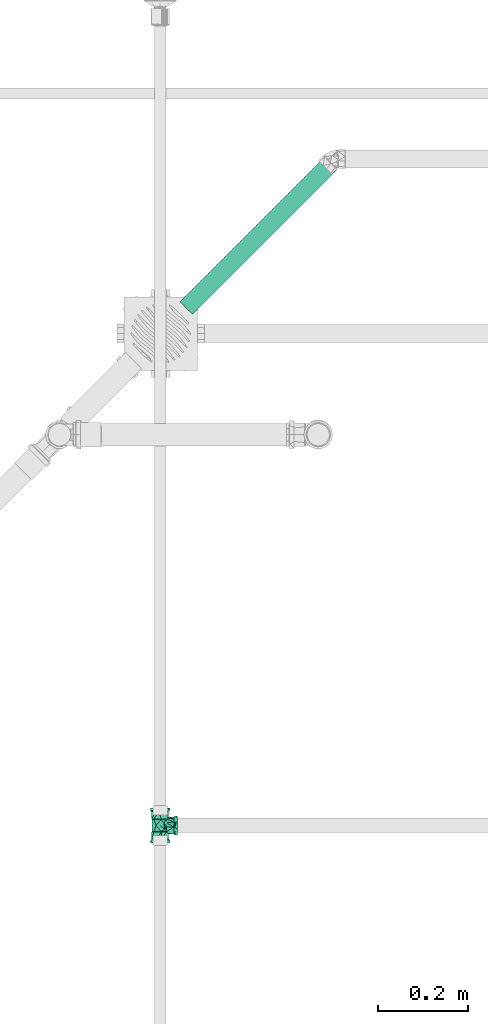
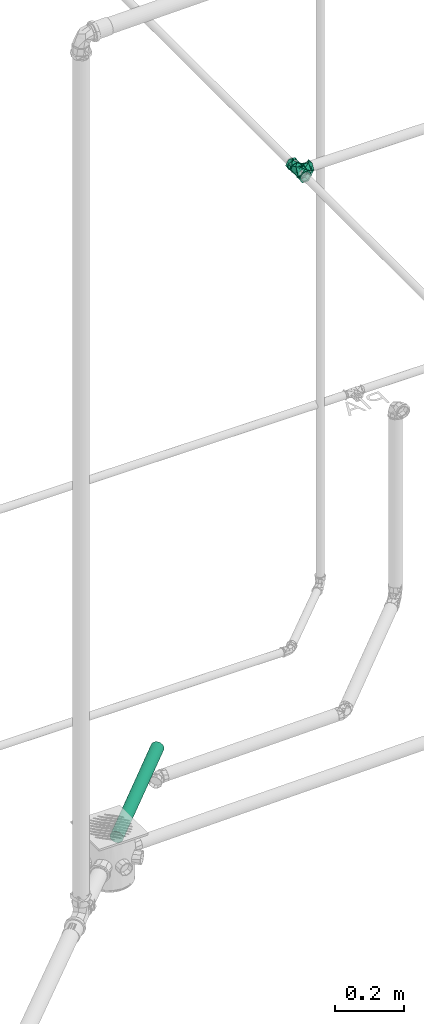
# One storey, part 65 of 589: 1 flow fitting, 1 flow segment.
"""IFC2X3 building model written with IfcOpenShell, lengths in millimetres."""

from ifc_helpers import new_model, entity, si_unit, converted_unit, derived_unit, direction, frame, frame_2d, origin, place, context, subcontext, project, spatial, circle, extrude, faceted_brep, source, transform, mapped, material, type_object, type_shapes, element, save


model = new_model("IFC2X3")

# Units and contexts
model_context = context("Model", 3, precision=0.01, world=origin(), true_north=direction((6.123031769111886e-17, 1.0)))
body_context = subcontext(model_context, "Body", "Model", "MODEL_VIEW")
ifc_project = project(units=[si_unit("LENGTHUNIT", "METRE", prefix="MILLI"), si_unit("AREAUNIT", "SQUARE_METRE"), si_unit("VOLUMEUNIT", "CUBIC_METRE"), converted_unit("PLANEANGLEUNIT", "DEGREE", entity("IfcRatioMeasure", 0.017453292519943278), si_unit("PLANEANGLEUNIT", "RADIAN"), dimensions=[0, 0, 0, 0, 0, 0, 0]), si_unit("MASSUNIT", "GRAM", prefix="KILO"), derived_unit("MASSDENSITYUNIT", [(si_unit("MASSUNIT", "GRAM", prefix="KILO"), 1), (si_unit("LENGTHUNIT", "METRE"), -3)]), derived_unit("IONCONCENTRATIONUNIT", [(si_unit("MASSUNIT", "GRAM", prefix="KILO"), 1), (si_unit("LENGTHUNIT", "METRE"), -3)]), derived_unit("MOMENTOFINERTIAUNIT", [(si_unit("LENGTHUNIT", "METRE"), 4)]), si_unit("TIMEUNIT", "SECOND"), si_unit("FREQUENCYUNIT", "HERTZ"), si_unit("THERMODYNAMICTEMPERATUREUNIT", "DEGREE_CELSIUS"), derived_unit("THERMALTRANSMITTANCEUNIT", [(si_unit("MASSUNIT", "GRAM", prefix="KILO"), 1), (si_unit("THERMODYNAMICTEMPERATUREUNIT", "KELVIN"), -1), (si_unit("TIMEUNIT", "SECOND"), -3)]), derived_unit("THERMALCONDUCTANCEUNIT", [(si_unit("MASSUNIT", "GRAM", prefix="KILO"), 1), (si_unit("THERMODYNAMICTEMPERATUREUNIT", "KELVIN"), -1), (si_unit("TIMEUNIT", "SECOND"), -3), (si_unit("LENGTHUNIT", "METRE"), 1)]), derived_unit("VOLUMETRICFLOWRATEUNIT", [(si_unit("LENGTHUNIT", "METRE"), 3), (si_unit("TIMEUNIT", "SECOND"), -1)]), derived_unit("MASSFLOWRATEUNIT", [(si_unit("MASSUNIT", "GRAM", prefix="KILO"), 1), (si_unit("TIMEUNIT", "SECOND"), -1)]), derived_unit("ROTATIONALFREQUENCYUNIT", [(si_unit("TIMEUNIT", "SECOND"), -1)]), si_unit("ELECTRICCURRENTUNIT", "AMPERE"), si_unit("ELECTRICVOLTAGEUNIT", "VOLT"), si_unit("POWERUNIT", "WATT"), si_unit("FORCEUNIT", "NEWTON", prefix="KILO"), si_unit("ILLUMINANCEUNIT", "LUX"), si_unit("LUMINOUSFLUXUNIT", "LUMEN"), si_unit("LUMINOUSINTENSITYUNIT", "CANDELA"), derived_unit("USERDEFINED", [(si_unit("MASSUNIT", "GRAM", prefix="KILO"), -1), (si_unit("LENGTHUNIT", "METRE"), -2), (si_unit("TIMEUNIT", "SECOND"), 3), (si_unit("LUMINOUSFLUXUNIT", "LUMEN"), 1)]), derived_unit("USERDEFINED", [(si_unit("MASSUNIT", "GRAM", prefix="KILO"), 1), (si_unit("TIMEUNIT", "SECOND"), -3), (si_unit("LENGTHUNIT", "METRE"), 3), (si_unit("ELECTRICCURRENTUNIT", "AMPERE"), -2)]), derived_unit("SOUNDPOWERUNIT", [(si_unit("MASSUNIT", "GRAM", prefix="KILO"), 1), (si_unit("TIMEUNIT", "SECOND"), -3), (si_unit("LENGTHUNIT", "METRE"), 2)]), derived_unit("SOUNDPRESSUREUNIT", [(si_unit("MASSUNIT", "GRAM", prefix="KILO"), 1), (si_unit("LENGTHUNIT", "METRE"), -1), (si_unit("TIMEUNIT", "SECOND"), -2)]), derived_unit("LINEARVELOCITYUNIT", [(si_unit("LENGTHUNIT", "METRE"), 1), (si_unit("TIMEUNIT", "SECOND"), -1)]), si_unit("PRESSUREUNIT", "PASCAL"), derived_unit("USERDEFINED", [(si_unit("MASSUNIT", "GRAM", prefix="KILO"), 1), (si_unit("LENGTHUNIT", "METRE"), -2), (si_unit("TIMEUNIT", "SECOND"), -2)]), derived_unit("LINEARFORCEUNIT", [(si_unit("MASSUNIT", "GRAM", prefix="KILO"), 1), (si_unit("TIMEUNIT", "SECOND"), -2)]), derived_unit("PLANARFORCEUNIT", [(si_unit("MASSUNIT", "GRAM", prefix="KILO"), 1), (si_unit("LENGTHUNIT", "METRE"), -1), (si_unit("TIMEUNIT", "SECOND"), -2)]), derived_unit("SPECIFICHEATCAPACITYUNIT", [(si_unit("THERMODYNAMICTEMPERATUREUNIT", "KELVIN"), -1), (si_unit("LENGTHUNIT", "METRE"), 2), (si_unit("TIMEUNIT", "SECOND"), -2)]), derived_unit("HEATINGVALUEUNIT", [(si_unit("LENGTHUNIT", "METRE"), 2), (si_unit("TIMEUNIT", "SECOND"), -2)]), derived_unit("VAPORPERMEABILITYUNIT", [(si_unit("LENGTHUNIT", "METRE"), -1), (si_unit("TIMEUNIT", "SECOND"), 1)]), derived_unit("DYNAMICVISCOSITYUNIT", [(si_unit("MASSUNIT", "GRAM", prefix="KILO"), 1), (si_unit("TIMEUNIT", "SECOND"), -1), (si_unit("LENGTHUNIT", "METRE"), -1)]), derived_unit("THERMALEXPANSIONCOEFFICIENTUNIT", [(si_unit("THERMODYNAMICTEMPERATUREUNIT", "KELVIN"), -1)]), derived_unit("MODULUSOFELASTICITYUNIT", [(si_unit("MASSUNIT", "GRAM", prefix="KILO"), 1), (si_unit("LENGTHUNIT", "METRE"), -1), (si_unit("TIMEUNIT", "SECOND"), -2)]), derived_unit("ISOTHERMALMOISTURECAPACITYUNIT", [(si_unit("LENGTHUNIT", "METRE"), 3), (si_unit("MASSUNIT", "GRAM", prefix="KILO"), -1)]), derived_unit("MOISTUREDIFFUSIVITYUNIT", [(si_unit("TIMEUNIT", "SECOND"), -1), (si_unit("LENGTHUNIT", "METRE"), 2)])], contexts=[model_context])

# Site, building, storey
site_placement = place(None, origin())
site = spatial("IfcSite", under=ifc_project, at=site_placement, Name="Default", CompositionType="ELEMENT")
building_placement = place(site_placement, origin())
building = spatial("IfcBuilding", under=site, at=building_placement, CompositionType="ELEMENT")
storey_placement = place(building_placement, frame((0.0, 0.0, 100.0)))
storey = spatial("IfcBuildingStorey", under=building, at=storey_placement, Name="TÉRREO", CompositionType="ELEMENT", Elevation=100.0)

# Flow segment
pipe_segment_type = type_object("IfcPipeSegmentType", Name="Tipos de tubos:PVC Esgoto Série Normal", PredefinedType="NOTDEFINED")
flow_segment_placement = place(storey_placement, origin())
element("IfcFlowSegment", 1, at=flow_segment_placement, inside=storey, type_object=pipe_segment_type, Name="Tipos de tubos:PVC Esgoto Série Normal", ObjectType="Tipos de tubos:PVC Esgoto Série Normal", context=body_context, shape_type="SweptSolid", body=[
    extrude(circle(Radius=20.0, at=frame_2d((-7.657026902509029e-13, -1.954009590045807e-14), x_axis=(1.0, 0.0))), frame((-7304.042231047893, -5047.21903945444, -109.95070554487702), z_axis=(0.7069654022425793, 0.7069654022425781, 0.01999600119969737), x_axis=(0.707106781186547, -0.7071067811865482, 0.0)), (0.0, 0.0, 1.0), 456.7004686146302),
])

# Flow fitting
ifc_material = material(Name="PVC Marrom")
pipe_fitting_type = type_object("IfcPipeFittingType", Name="PVC Marrom Soldável_Tê e Tê de Reducão_Rodrigo MEP:Tê", PredefinedType="NOTDEFINED", material=ifc_material)
shared_shape = source(origin(), body_context, "Body", "Brep", [
    faceted_brep([(10.749999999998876, -39.0, -18.619546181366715), (16.0, -39.0, 0.0), (12.0, -39.0, -6.928203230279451), (16.66854307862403, -39.0, -8.36832886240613), (8.0, -39.0, -13.856406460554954), (0.0, -39.0, -13.856406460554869), (-8.0, -39.0, -13.856406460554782), (0.0, -39.0, -18.619546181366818), (21.500000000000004, -39.0, 0.0), (11.832084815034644, -39.0, 7.219040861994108), (8.0, -39.0, 13.856406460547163), (16.12500000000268, -39.0, 9.309773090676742), (10.750000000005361, -39.0, 18.619546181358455), (0.0, -39.0, 13.856406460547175), (-8.0, -39.0, 13.856406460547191), (0.0, -39.0, 18.61954618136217), (-10.749999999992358, -39.0, 18.61954618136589), (-16.668543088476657, -39.0, 8.368328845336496), (-21.500000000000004, -39.0, 0.0), (-12.0, -39.0, 6.928203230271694), (-16.0, -39.0, 0.0), (-16.1249999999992, -39.0, -9.309773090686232), (-10.749999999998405, -39.0, -18.619546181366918), (-11.832084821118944, -39.0, -7.219040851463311), (-12.615537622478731, -33.0, 10.586891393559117), (-3.7310752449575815, -33.0, 21.17378278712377), (5.5663459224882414, -35.634400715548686, 20.76693990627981), (-21.499999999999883, -33.0, 0.0), (21.499999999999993, -33.0, 0.0), (8.884462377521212, -33.0, 10.586891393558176), (12.618193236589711, -33.0, -10.586423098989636), (3.7363864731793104, -33.0, -21.172846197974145), (-5.562438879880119, -35.63453199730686, -20.767986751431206), (-8.881806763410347, -33.0, -10.586423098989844), (-12.0, -33.0, -6.928203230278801), (-8.0, -33.0, -13.856406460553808), (-16.0, -33.0, 0.0), (-16.0, -30.500000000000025, 0.0), (-11.832084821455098, -30.50000000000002, -7.219040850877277), (-12.0, -30.50000000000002, -6.928203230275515), (-16.0, -20.4, 0.0), (-8.0, -30.50000000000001, -13.856406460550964), (-11.832084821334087, -20.4, -7.219040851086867), (-8.0, -20.4, -13.856406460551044), (8.0, -33.0, -13.856406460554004), (0.0, -33.0, -13.856406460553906), (8.0, -30.499999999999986, -13.856406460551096), (0.0, -30.499999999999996, -13.85640646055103), (8.0, -20.4, -13.85640646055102), (0.0, -20.4, -13.856406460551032), (-22.899999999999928, -8.0, -13.856406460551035), (-22.899999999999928, 0.0, -13.856406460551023), (-30.5, 0.0, -13.856406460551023), (-30.5, -8.0, -13.856406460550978), (-30.5, 8.0, -13.856406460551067), (-22.899999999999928, 8.0, -13.85640646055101), (-39.0, 8.0, -13.856406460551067), (-39.0, 0.0, -13.856406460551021), (-39.0, -8.0, -13.856406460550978), (22.900000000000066, 8.0, -13.856406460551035), (22.900000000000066, 0.0, -13.856406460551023), (22.900000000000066, -8.0, -13.85640646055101), (39.0, -8.0, -13.856406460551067), (39.0, 0.0, -13.856406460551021), (39.0, 8.0, -13.856406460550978), (11.832084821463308, -33.0, -7.219040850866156), (16.0, -33.0, 0.0), (12.0, -30.49999999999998, -6.928203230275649), (16.0, -30.499999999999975, 0.0), (12.0, -20.4, -6.928203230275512), (16.0, -20.4, 0.0), (11.832084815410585, -30.499999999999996, -7.219040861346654), (12.0, -33.0, 6.928203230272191), (8.0, -33.0, 13.856406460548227), (11.832084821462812, -30.49999999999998, 7.219040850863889), (12.0, -30.49999999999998, 6.928203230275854), (8.0, -30.499999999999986, 13.856406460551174), (11.832084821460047, -20.4, 7.2190408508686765), (8.0, -20.4, 13.856406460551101), (-8.0, -33.0, 13.856406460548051), (0.0, -33.0, 13.856406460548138), (-8.0, -30.50000000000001, 13.856406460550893), (0.0, -30.5, 13.856406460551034), (-8.0, -20.4, 13.856406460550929), (0.0, -20.4, 13.856406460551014), (-22.899999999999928, 8.0, 13.85640646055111), (-22.899999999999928, 0.0, 13.856406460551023), (-30.5, 0.0, 13.856406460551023), (-30.5, 8.0, 13.85640646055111), (-30.5, -8.0, 13.856406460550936), (-22.899999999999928, -8.0, 13.856406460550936), (-39.0, -8.0, 13.856406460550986), (-39.0, 0.0, 13.856406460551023), (-39.0, 8.0, 13.856406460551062), (22.900000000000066, -8.0, 13.85640646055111), (22.900000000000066, 0.0, 13.856406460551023), (22.900000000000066, 8.0, 13.856406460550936), (39.0, 8.0, 13.856406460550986), (39.0, 0.0, 13.856406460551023), (39.0, -8.0, 13.856406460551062), (-11.832084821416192, -33.0, 7.2190408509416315), (-12.0, -30.50000000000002, 6.928203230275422), (-12.0, -20.4, 6.928203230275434), (-11.832084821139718, -30.500000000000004, 7.219040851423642), (-19.0, -30.50000000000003, 0.0), (-13.425692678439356, -30.499999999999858, -4.677928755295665), (-7.851385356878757, -30.49999999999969, -9.355857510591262), (-6.608146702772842, -30.49999999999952, -10.399176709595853), (3.297229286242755, -30.499999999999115, -18.71171502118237), (11.148614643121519, -30.499999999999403, -9.355857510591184), (19.0, -30.49999999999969, 0.0), (7.8490385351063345, -30.500000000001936, 9.355443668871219), (-3.3019229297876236, -30.500000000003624, 18.710887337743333), (-8.094202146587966, -30.50000000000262, 12.99886311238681), (-11.150961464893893, -30.50000000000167, 9.35544366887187), (13.424519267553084, -30.500000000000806, 4.677721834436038), (-3.2522100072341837, -14.400000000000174, 18.719592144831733), (-10.289812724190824, -14.400000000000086, 14.726976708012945), (-14.400000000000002, -14.40000000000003, 12.395160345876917), (19.0, -19.0, 0.0), (16.767135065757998, -16.767135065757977, 8.936620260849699), (-18.402193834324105, -18.402193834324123, 4.728558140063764), (-19.0, -19.0, 0.0), (14.400000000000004, -14.399999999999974, 12.395160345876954), (5.5738949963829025, -14.400000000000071, 15.557376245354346), (3.2522095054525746, -14.399999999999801, -18.71959223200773), (10.289812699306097, -14.39999999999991, -14.726976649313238), (14.399999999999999, -14.399999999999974, -12.395160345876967), (-16.76484456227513, -16.764844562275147, -8.940916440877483), (18.40219383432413, -18.402193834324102, -4.728558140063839), (-14.399999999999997, -14.400000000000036, -12.39516034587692), (-5.573895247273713, -14.39999999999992, -15.557376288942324), (13.749859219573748, -13.74985921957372, -12.376888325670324), (-4.945359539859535, -13.100000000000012, -15.865050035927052), (8.128165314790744e-06, -13.100000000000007, -18.0), (4.945360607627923, -13.099999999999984, -15.865053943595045), (13.100000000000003, -13.099999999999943, -12.344634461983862), (-13.749859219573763, -13.749859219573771, -12.376888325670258), (-13.1, -13.100000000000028, -12.344634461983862), (-13.74985921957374, -13.749859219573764, 12.376888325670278), (4.9453606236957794, -13.099999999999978, 15.86505393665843), (8.128165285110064e-06, -13.09999999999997, 18.0), (-4.945359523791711, -13.099999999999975, 15.865050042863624), (-13.1, -13.099999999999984, 12.344634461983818), (13.749859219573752, -13.749859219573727, 12.376888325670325), (13.099999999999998, -13.09999999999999, 12.344634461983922), (-4.833352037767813, -8.945106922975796, -15.620021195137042), (9.227915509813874, -10.815577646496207, -14.3883035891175), (0.0, -8.16558109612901, -16.04129936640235), (4.83335203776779, -8.945106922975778, 15.620021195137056), (-9.227915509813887, -10.81557764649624, 14.388303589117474), (0.0, -8.16558109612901, 16.041299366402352), (-22.899999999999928, -16.0, 0.0), (-22.899999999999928, -11.83208482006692, 7.21904085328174), (-22.899999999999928, 12.0, 6.928203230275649), (-22.899999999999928, 16.0, 0.0), (-22.899999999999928, 11.832084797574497, -7.219040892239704), (-22.899999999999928, -12.0, -6.928203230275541), (-30.5, -11.832084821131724, 7.2190408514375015), (-30.5, -12.0, 6.928203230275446), (-30.5, -16.0, 0.0), (-39.0, -12.0, 6.928203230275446), (-39.0, -16.0, 0.0), (39.0, -16.0, 0.0), (22.900000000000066, -16.0, 0.0), (22.900000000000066, -12.0, 6.928203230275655), (39.0, -11.857972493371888, 7.174202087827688), (-30.5, 16.0, 0.0), (-30.5, 12.0, 6.928203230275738), (-39.0, 16.0, 0.0), (-30.499999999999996, 11.83208482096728, 7.219040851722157), (-39.0, 11.832084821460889, 7.219040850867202), (22.900000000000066, 11.857972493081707, 7.1742020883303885), (22.900000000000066, 16.0, 0.0), (39.0, 16.0, 0.0), (39.0, 12.0, 6.928203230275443), (-30.5, 11.832084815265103, -7.2190408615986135), (-30.5, 12.0, -6.928203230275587), (-39.0, 12.0, -6.928203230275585), (22.900000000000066, 12.0, -6.92820323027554), (39.0, 11.857972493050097, -7.1742020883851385), (-30.5, -12.0, -6.9282032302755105), (-30.499999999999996, -11.832084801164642, -7.219040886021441), (-39.0, -11.832084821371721, -7.219040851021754), (22.900000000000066, -11.857972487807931, -7.174202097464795), (39.0, -12.0, -6.928203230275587), (0.0, 9.40740514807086, -15.34603298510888), (-13.099999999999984, 13.584749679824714, -11.8090887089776), (0.0, 13.70370257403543, -7.673016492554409), (-13.099999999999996, -1.7833793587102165, -17.911436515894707), (0.0, 0.6894868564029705, -15.690953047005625), (0.0, 18.0, 0.0), (13.1, 18.0, 0.0), (-13.1, 18.0, 0.0), (-13.099999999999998, 5.900685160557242, -14.860262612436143), (-13.099999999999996, 15.792374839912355, -5.904544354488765), (-13.10000000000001, -9.089444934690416, -14.317481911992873), (0.0, 0.6209120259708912, 15.693666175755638), (0.0, 9.407405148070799, 15.346032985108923), (-13.1, 13.58474967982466, 11.809088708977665), (-13.099999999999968, 5.900685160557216, 14.860262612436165), (-13.099999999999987, -1.783379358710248, 17.911436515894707), (0.0, 13.703702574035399, 7.673016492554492), (-13.09999999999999, 16.43471082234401, 4.186543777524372), (-13.099999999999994, -9.034124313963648, 14.344694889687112), (-14.40000000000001, 14.169641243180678, -12.657853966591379), (-14.400000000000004, 16.58482062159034, -6.328926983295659), (-14.400000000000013, 5.846235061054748, -15.747839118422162), (-14.400000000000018, -2.4771711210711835, -18.837824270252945), (-14.40000000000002, -6.105567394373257, -16.877170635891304), (-14.4, 19.0, 0.0), (-14.399999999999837, 5.846235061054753, 15.747839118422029), (-14.399999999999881, -2.4771711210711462, 18.83782427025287), (-14.399999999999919, -6.105567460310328, 16.877170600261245), (-14.399999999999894, 16.58482062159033, 6.32892698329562), (-14.399999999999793, 14.169641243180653, 12.657853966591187), (-30.5, 19.0, 0.0), (-30.50000000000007, 7.849038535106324, 9.355443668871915), (-30.500000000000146, -3.3019229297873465, 18.710887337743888), (-30.5, -19.0, 0.0), (-30.50000000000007, -11.150961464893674, 9.355443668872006), (-30.499999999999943, -7.851385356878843, -9.355857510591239), (-30.499999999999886, 3.297229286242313, -18.711715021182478), (-30.499999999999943, 11.148614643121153, -9.35585751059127), (-33.0, 9.159228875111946, -14.709239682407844), (-33.0, 12.618193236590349, -10.58642309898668), (-33.0, 21.500000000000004, 0.0), (-33.0, -8.881806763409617, -10.586423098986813), (-33.0, 3.7363864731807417, -21.172846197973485), (-33.0, -21.499999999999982, 0.0), (-33.0, -3.731075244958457, 21.17378278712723), (-33.0, -12.615537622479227, 10.586891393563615), (-33.0, 8.884462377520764, 10.586891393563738), (-33.0, 7.477639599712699, 11.76748951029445), (-39.0, -10.75000000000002, -18.619546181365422), (-39.0, -16.668543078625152, -8.36832886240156), (-39.0, 0.0, -18.61954618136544), (-39.0, -21.500000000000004, 0.0), (-39.0, -16.124999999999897, 9.309773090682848), (-39.0, -10.749999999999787, 18.619546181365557), (-39.0, 0.0, 18.61954618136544), (-39.0, 10.750000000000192, 18.619546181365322), (-39.0, 16.668543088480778, 8.368328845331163), (-39.0, 21.500000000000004, 0.0), (-39.0, 16.124999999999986, -9.309773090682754), (-39.0, 10.749999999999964, -18.619546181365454), (33.0, 21.50000000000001, 0.0), (39.0, 16.124999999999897, 9.309773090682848), (39.0, 21.500000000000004, 0.0), (33.0, -21.500000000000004, 0.0), (39.0, -21.500000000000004, 0.0), (39.0, -16.668543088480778, 8.368328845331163), (39.0, -16.124999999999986, -9.309773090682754), (39.0, 16.668543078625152, -8.36832886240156), (13.10000000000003, 13.584749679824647, -11.809088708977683), (13.099999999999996, 5.900685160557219, -14.860262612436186), (13.100000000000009, -1.7833793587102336, -17.911436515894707), (13.100000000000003, 16.434710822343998, -4.18654377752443), (13.100000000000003, -9.034124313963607, -14.34469488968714), (13.09999999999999, 13.584749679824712, 11.809088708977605), (13.100000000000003, -1.7833793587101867, 17.91143651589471), (13.100000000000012, 5.900685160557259, 14.860262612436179), (13.100000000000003, 15.792374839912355, 5.904544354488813), (13.100000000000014, -9.089444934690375, 14.31748191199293), (14.40000000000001, 5.84623506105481, -15.74783911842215), (14.40000000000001, -2.4771711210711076, -18.837824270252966), (14.400000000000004, -6.105567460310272, -16.877170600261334), (14.400000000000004, 16.584820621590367, -6.328926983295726), (14.40000000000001, 14.169641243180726, -12.657853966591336), (14.4, 19.0, 0.0), (14.400000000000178, 14.169641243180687, 12.657853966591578), (14.40000000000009, 16.584820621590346, 6.328926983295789), (14.40000000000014, 5.846235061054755, 15.747839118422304), (14.400000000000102, -2.477171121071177, 18.83782427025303), (14.40000000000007, -6.105567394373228, 16.877170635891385), (30.500000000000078, -7.849038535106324, 9.355443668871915), (30.500000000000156, 3.3019229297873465, 18.710887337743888), (30.5, -19.0, 0.0), (30.500000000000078, 11.150961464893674, 9.355443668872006), (30.5, 19.0, 0.0), (30.49999999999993, 7.851385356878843, -9.355857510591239), (30.499999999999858, -3.297229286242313, -18.711715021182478), (30.499999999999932, -11.148614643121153, -9.35585751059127), (33.0, -3.7310752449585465, -21.173782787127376), (33.0, -9.157756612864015, -14.707247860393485), (33.0, -12.61553762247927, -10.58689139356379), (33.0, 8.884462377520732, -10.586891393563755), (33.0, 3.7363864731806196, 21.17284619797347), (33.0, 9.159228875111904, 14.70923968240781), (33.0, 12.618193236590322, 10.586423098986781), (33.0, -8.881806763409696, 10.586423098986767), (39.0, 10.75000000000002, -18.619546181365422), (39.0, 0.0, -18.61954618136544), (39.0, 10.749999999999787, 18.619546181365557), (39.0, 0.0, 18.61954618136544), (39.0, -10.750000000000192, 18.619546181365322), (39.0, -10.749999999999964, -18.619546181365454)], [[[0, 1, 2]], [[1, 0, 3]], [[0, 2, 4]], [[0, 4, 5]], [[0, 5, 6]], [[6, 7, 0]], [[1, 3, 8]], [[8, 9, 1]], [[8, 10, 9]], [[10, 8, 11]], [[10, 11, 12]], [[12, 13, 10]], [[12, 14, 13]], [[14, 12, 15]], [[14, 15, 16]], [[14, 16, 17]], [[14, 17, 18]], [[18, 19, 14]], [[18, 20, 19]], [[20, 18, 21]], [[20, 21, 22]], [[22, 6, 23]], [[6, 22, 7]], [[22, 23, 20]], [[24, 16, 25]], [[16, 26, 25]], [[24, 27, 17]], [[27, 18, 17]], [[28, 11, 8]], [[26, 11, 29]], [[28, 29, 11]], [[25, 26, 29]], [[26, 16, 15, 12]], [[11, 26, 12]], [[16, 24, 17]], [[30, 0, 31]], [[0, 32, 31]], [[30, 28, 3]], [[28, 8, 3]], [[27, 21, 18]], [[32, 21, 33]], [[27, 33, 21]], [[31, 32, 33]], [[32, 0, 7, 22]], [[21, 32, 22]], [[0, 30, 3]], [[34, 23, 35]], [[23, 34, 20]], [[36, 20, 34]], [[37, 36, 34]], [[34, 35, 38]], [[34, 38, 39]], [[34, 39, 37]], [[40, 37, 39]], [[23, 6, 35]], [[41, 38, 35]], [[42, 38, 41]], [[43, 42, 41]], [[42, 39, 38]], [[39, 42, 40]], [[44, 45, 4]], [[46, 45, 44]], [[47, 45, 46]], [[48, 47, 46]], [[49, 47, 48]], [[41, 47, 49]], [[49, 43, 41]], [[47, 41, 35]], [[45, 35, 5]], [[35, 6, 5]], [[35, 45, 47]], [[5, 4, 45]], [[44, 45, 4]], [[46, 45, 44]], [[47, 45, 46]], [[48, 47, 46]], [[49, 47, 48]], [[41, 47, 49]], [[49, 43, 41]], [[47, 41, 35]], [[45, 35, 5]], [[35, 6, 5]], [[35, 45, 47]], [[5, 4, 45]], [[50, 51, 52]], [[52, 53, 50]], [[52, 51, 54]], [[54, 51, 55]], [[56, 52, 54]], [[57, 52, 56]], [[53, 52, 57]], [[57, 58, 53]], [[59, 60, 61, 62, 63, 64]], [[2, 65, 4]], [[65, 2, 66]], [[2, 1, 66]], [[67, 65, 66]], [[66, 68, 67]], [[69, 67, 68]], [[68, 70, 69]], [[69, 71, 67]], [[69, 48, 71]], [[46, 71, 48]], [[44, 65, 46]], [[65, 71, 46]], [[44, 4, 65]], [[65, 67, 71]], [[72, 9, 73]], [[9, 72, 1]], [[66, 1, 72]], [[68, 66, 72]], [[72, 73, 74]], [[72, 74, 75]], [[72, 75, 68]], [[70, 68, 75]], [[9, 10, 73]], [[76, 74, 73]], [[77, 74, 76]], [[78, 77, 76]], [[77, 75, 74]], [[75, 77, 70]], [[79, 80, 14]], [[81, 80, 79]], [[82, 80, 81]], [[83, 82, 81]], [[84, 82, 83]], [[76, 82, 84]], [[84, 78, 76]], [[82, 76, 73]], [[80, 73, 13]], [[73, 10, 13]], [[73, 80, 82]], [[13, 14, 80]], [[79, 80, 14]], [[81, 80, 79]], [[82, 80, 81]], [[83, 82, 81]], [[84, 82, 83]], [[76, 82, 84]], [[84, 78, 76]], [[82, 76, 73]], [[80, 73, 13]], [[73, 10, 13]], [[73, 80, 82]], [[13, 14, 80]], [[85, 86, 87]], [[87, 88, 85]], [[87, 86, 89]], [[89, 86, 90]], [[91, 87, 89]], [[92, 87, 91]], [[88, 87, 92]], [[92, 93, 88]], [[94, 95, 96, 97, 98, 99]], [[19, 100, 14]], [[100, 19, 36]], [[19, 20, 36]], [[101, 100, 36]], [[36, 37, 101]], [[102, 101, 37]], [[37, 40, 102]], [[102, 103, 101]], [[102, 83, 103]], [[81, 103, 83]], [[79, 100, 81]], [[100, 103, 81]], [[79, 14, 100]], [[100, 101, 103]], [[33, 104, 105, 106, 107]], [[31, 107, 108]], [[31, 108, 109]], [[109, 30, 31]], [[110, 30, 109]], [[107, 31, 33]], [[28, 30, 110]], [[104, 33, 27]], [[110, 29, 28]], [[111, 25, 29]], [[25, 111, 112]], [[25, 113, 24]], [[104, 27, 24]], [[113, 25, 112]], [[24, 113, 114, 104]], [[29, 110, 115, 111]], [[112, 116, 117, 118]], [[115, 119, 120]], [[121, 122, 104]], [[121, 104, 114]], [[111, 123, 124]], [[114, 118, 121]], [[118, 114, 113, 112]], [[120, 111, 115]], [[112, 124, 116]], [[124, 112, 111]], [[115, 110, 119]], [[111, 120, 123]], [[108, 125, 126, 127]], [[105, 122, 128]], [[129, 119, 110]], [[129, 110, 109]], [[106, 130, 131]], [[109, 127, 129]], [[108, 127, 109]], [[128, 106, 105]], [[108, 131, 125]], [[131, 108, 107, 106]], [[105, 104, 122]], [[106, 128, 130]], [[132, 127, 126]], [[133, 134, 131]], [[126, 125, 135]], [[135, 136, 132]], [[137, 133, 131]], [[137, 138, 133]], [[131, 134, 125]], [[134, 135, 125]], [[132, 126, 135]], [[131, 130, 137]], [[139, 118, 117]], [[140, 141, 124]], [[117, 116, 142]], [[142, 143, 139]], [[144, 140, 124]], [[144, 145, 140]], [[124, 141, 116]], [[141, 142, 116]], [[139, 117, 142]], [[124, 123, 144]], [[146, 134, 133, 138]], [[147, 146, 148]], [[147, 136, 135, 134]], [[147, 134, 146]], [[149, 141, 140, 145]], [[141, 149, 150]], [[150, 143, 142, 141]], [[150, 149, 151]], [[48, 69, 70, 77, 78, 84, 83, 102, 40, 42, 43, 49]], [[152, 153, 90, 86, 85, 154, 155, 156, 55, 51, 50, 157]], [[90, 153, 89]], [[153, 158, 89]], [[153, 159, 158]], [[159, 153, 152]], [[152, 160, 159]], [[161, 159, 160]], [[160, 162, 161]], [[161, 91, 158]], [[161, 158, 159]], [[89, 158, 91]], [[163, 164, 165, 94, 99, 166]], [[167, 155, 154]], [[154, 168, 167]], [[169, 167, 168]], [[154, 170, 168]], [[154, 85, 170]], [[88, 170, 85]], [[171, 170, 88]], [[93, 171, 88]], [[171, 168, 170]], [[168, 171, 169]], [[96, 172, 173, 174, 175, 97]], [[55, 156, 54]], [[156, 176, 54]], [[156, 177, 176]], [[177, 156, 155]], [[155, 167, 177]], [[178, 177, 167]], [[167, 169, 178]], [[178, 56, 176]], [[178, 176, 177]], [[54, 176, 56]], [[174, 173, 179, 59, 64, 180]], [[160, 152, 157]], [[157, 181, 160]], [[162, 160, 181]], [[157, 182, 181]], [[157, 50, 182]], [[53, 182, 50]], [[183, 182, 53]], [[58, 183, 53]], [[183, 181, 182]], [[181, 183, 162]], [[61, 184, 164, 163, 185, 62]], [[186, 187, 188]], [[189, 190, 146]], [[191, 192, 188, 193]], [[186, 189, 194, 187]], [[190, 148, 146]], [[188, 187, 195, 193]], [[146, 138, 196, 189]], [[189, 186, 190]], [[197, 150, 151]], [[198, 199, 200, 201]], [[202, 193, 203, 199]], [[204, 143, 150, 201]], [[198, 201, 197]], [[199, 198, 202]], [[150, 197, 201]], [[202, 192, 191, 193]], [[187, 205, 206]], [[205, 187, 194]], [[187, 206, 195]], [[207, 189, 208]], [[137, 209, 196]], [[193, 195, 210]], [[137, 130, 209]], [[196, 138, 137]], [[189, 207, 194]], [[208, 189, 209]], [[210, 195, 206]], [[205, 194, 207]], [[189, 196, 209]], [[201, 211, 212]], [[204, 201, 213]], [[204, 213, 139]], [[213, 201, 212]], [[199, 214, 215]], [[214, 199, 203]], [[215, 200, 199]], [[203, 210, 214]], [[139, 143, 204]], [[211, 201, 200]], [[215, 211, 200]], [[203, 193, 210]], [[213, 118, 139]], [[215, 216, 217]], [[217, 212, 211, 215]], [[218, 212, 217]], [[216, 215, 214, 210]], [[219, 121, 220]], [[118, 218, 220]], [[218, 118, 213, 212]], [[122, 121, 219]], [[118, 220, 121]], [[208, 221, 222]], [[122, 219, 128]], [[205, 222, 223]], [[128, 219, 221]], [[221, 208, 209, 130]], [[222, 205, 207, 208]], [[216, 210, 223]], [[223, 210, 206, 205]], [[221, 130, 128]], [[222, 224, 223]], [[223, 224, 225, 226]], [[222, 227, 228]], [[229, 221, 219]], [[226, 216, 223]], [[224, 222, 228]], [[227, 222, 221]], [[229, 227, 221]], [[218, 230, 231]], [[231, 220, 218]], [[217, 226, 232, 233]], [[218, 233, 230]], [[229, 220, 231]], [[233, 218, 217]], [[219, 220, 229]], [[226, 217, 216]], [[234, 162, 183]], [[162, 234, 235]], [[234, 183, 58]], [[234, 58, 57]], [[234, 57, 56]], [[56, 236, 234]], [[162, 235, 237]], [[237, 161, 162]], [[237, 91, 161]], [[91, 237, 238]], [[91, 238, 239]], [[239, 92, 91]], [[239, 93, 92]], [[93, 239, 240]], [[93, 240, 241]], [[93, 241, 242]], [[93, 242, 243]], [[243, 171, 93]], [[243, 169, 171]], [[169, 243, 244]], [[169, 244, 245]], [[245, 56, 178]], [[56, 245, 236]], [[245, 178, 169]], [[232, 242, 241]], [[232, 226, 242]], [[226, 243, 242]], [[246, 247, 248]], [[229, 238, 237]], [[249, 250, 251]], [[230, 239, 231]], [[231, 239, 238]], [[229, 231, 238]], [[230, 241, 240, 239]], [[241, 230, 233, 232]], [[227, 235, 234]], [[227, 229, 235]], [[229, 237, 235]], [[249, 252, 250]], [[226, 244, 243]], [[246, 248, 253]], [[245, 225, 224, 228]], [[225, 245, 244]], [[226, 225, 244]], [[227, 236, 228]], [[228, 236, 245]], [[227, 234, 236]], [[190, 147, 148]], [[186, 254, 255, 256]], [[188, 192, 257, 254]], [[258, 136, 147, 256]], [[186, 256, 190]], [[254, 186, 188]], [[147, 190, 256]], [[198, 259, 202]], [[260, 197, 149]], [[198, 260, 261, 259]], [[197, 151, 149]], [[202, 259, 262, 192]], [[149, 145, 263, 260]], [[260, 198, 197]], [[256, 264, 265]], [[258, 256, 266]], [[258, 266, 132]], [[266, 256, 265]], [[254, 267, 268]], [[267, 254, 257]], [[268, 255, 254]], [[257, 269, 267]], [[132, 136, 258]], [[264, 256, 255]], [[268, 264, 255]], [[257, 192, 269]], [[266, 127, 132]], [[259, 270, 271]], [[270, 259, 261]], [[259, 271, 262]], [[272, 260, 273]], [[144, 274, 263]], [[192, 262, 269]], [[144, 123, 274]], [[263, 145, 144]], [[260, 272, 261]], [[273, 260, 274]], [[269, 262, 271]], [[270, 261, 272]], [[260, 263, 274]], [[273, 275, 276]], [[119, 277, 120]], [[270, 276, 278]], [[120, 277, 275]], [[275, 273, 274, 123]], [[276, 270, 272, 273]], [[279, 269, 278]], [[278, 269, 271, 270]], [[275, 123, 120]], [[268, 279, 280]], [[280, 265, 264, 268]], [[281, 265, 280]], [[279, 268, 267, 269]], [[277, 129, 282]], [[127, 281, 282]], [[281, 127, 266, 265]], [[119, 129, 277]], [[127, 282, 129]], [[281, 283, 284, 285, 249, 277, 282]], [[281, 280, 279, 246, 286, 283]], [[276, 287, 288, 289, 246, 279, 278]], [[276, 275, 277, 249, 290, 287]], [[291, 174, 180]], [[174, 291, 253]], [[291, 180, 64]], [[291, 64, 63]], [[291, 63, 62]], [[62, 292, 291]], [[174, 253, 248]], [[248, 175, 174]], [[248, 97, 175]], [[97, 248, 247]], [[97, 247, 293]], [[293, 98, 97]], [[293, 99, 98]], [[99, 293, 294]], [[99, 294, 295]], [[99, 295, 251]], [[99, 251, 250]], [[250, 166, 99]], [[250, 163, 166]], [[163, 250, 252]], [[163, 252, 296]], [[296, 62, 185]], [[62, 296, 292]], [[296, 185, 163]], [[290, 251, 295]], [[290, 249, 251]], [[293, 289, 288, 287]], [[289, 293, 247]], [[246, 289, 247]], [[290, 294, 287]], [[287, 294, 293]], [[290, 295, 294]], [[286, 253, 291]], [[286, 246, 253]], [[296, 285, 284, 283]], [[285, 296, 252]], [[249, 285, 252]], [[283, 291, 292, 296]], [[283, 286, 291]], [[173, 172, 96, 95, 94, 165, 164, 184, 61, 60, 59, 179]]]),
])
type_shapes(pipe_fitting_type, [shared_shape])
flow_fitting_placement = place(storey_placement, frame((-7362.272959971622, -6202.62578222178, 2970.0), z_axis=(0.0, 0.0, -1.0), x_axis=(0.0, -1.0, 0.0)))
element("IfcFlowFitting", 2, at=flow_fitting_placement, inside=storey, type_object=pipe_fitting_type, material=ifc_material, Name="PVC Marrom Soldável_Tê e Tê de Reducão_Rodrigo MEP:Tê", ObjectType="PVC Marrom Soldável_Tê e Tê de Reducão_Rodrigo MEP:Tê", context=body_context, shape_type="MappedRepresentation", body=[
    mapped(shared_shape, transform((0.0, 0.0, 0.0), scale=1.0)),
])

save(model, "model.ifc")
